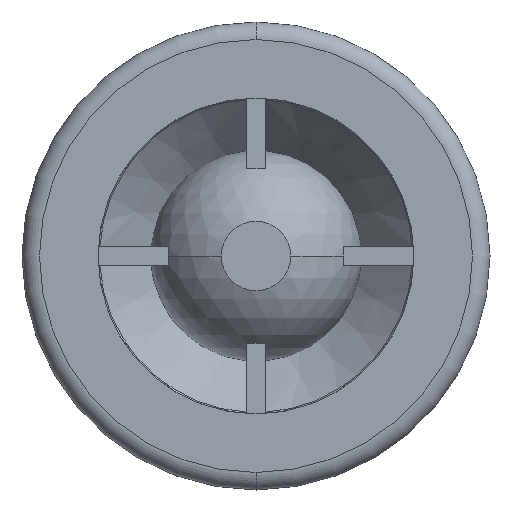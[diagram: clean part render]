
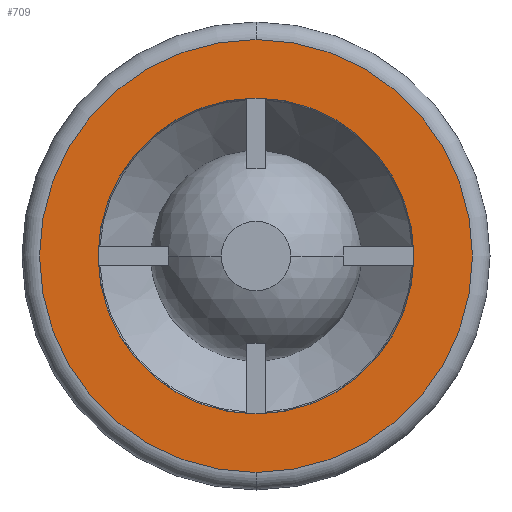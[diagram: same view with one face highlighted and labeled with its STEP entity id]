
A CAD part, front view. The second image highlights one B-rep face of the part: STEP entity #709.
In plain terms, the highlighted planar face has unit normal (0, -1, 0).
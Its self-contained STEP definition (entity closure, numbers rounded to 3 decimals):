
#282 = EDGE_CURVE ( 'NONE', #283, #284, #1837, .T. ) ;
#283 = VERTEX_POINT ( 'NONE', #1893 ) ;
#284 = VERTEX_POINT ( 'NONE', #1892 ) ;
#476 = VERTEX_POINT ( 'NONE', #2261 ) ;
#478 = EDGE_CURVE ( 'NONE', #476, #479, #2260, .T. ) ;
#479 = VERTEX_POINT ( 'NONE', #2255 ) ;
#514 = EDGE_CURVE ( 'NONE', #479, #476, #2303, .T. ) ;
#658 = EDGE_LOOP ( 'NONE', ( #710, #712 ) ) ;
#709 = ADVANCED_FACE ( 'NONE', ( #2682, #2681 ), #2680, .F. ) ;
#710 = ORIENTED_EDGE ( 'NONE', *, *, #711, .T. ) ;
#711 = EDGE_CURVE ( 'NONE', #284, #283, #2674, .T. ) ;
#712 = ORIENTED_EDGE ( 'NONE', *, *, #282, .T. ) ;
#713 = EDGE_LOOP ( 'NONE', ( #714, #715 ) ) ;
#714 = ORIENTED_EDGE ( 'NONE', *, *, #514, .F. ) ;
#715 = ORIENTED_EDGE ( 'NONE', *, *, #478, .F. ) ;
#1830 = DIRECTION ( 'NONE',  ( 0., 0., 1. ) ) ;
#1831 = DIRECTION ( 'NONE',  ( 0., -1., 0. ) ) ;
#1832 = CARTESIAN_POINT ( 'NONE',  ( 0., 0., 0. ) ) ;
#1833 = AXIS2_PLACEMENT_3D ( 'NONE', #1832, #1831, #1830 ) ;
#1837 = CIRCLE ( 'NONE', #1833, 18.5 ) ;
#1892 = CARTESIAN_POINT ( 'NONE',  ( 0., 0., 18.5 ) ) ;
#1893 = CARTESIAN_POINT ( 'NONE',  ( 0., 0., -18.5 ) ) ;
#2255 = CARTESIAN_POINT ( 'NONE',  ( 0., 0., -13.5 ) ) ;
#2256 = DIRECTION ( 'NONE',  ( 0., 0., -1. ) ) ;
#2257 = DIRECTION ( 'NONE',  ( 0., -1., 0. ) ) ;
#2258 = CARTESIAN_POINT ( 'NONE',  ( 0., 0., 0. ) ) ;
#2259 = AXIS2_PLACEMENT_3D ( 'NONE', #2258, #2257, #2256 ) ;
#2260 = CIRCLE ( 'NONE', #2259, 13.5 ) ;
#2261 = CARTESIAN_POINT ( 'NONE',  ( 0., 0., 13.5 ) ) ;
#2299 = DIRECTION ( 'NONE',  ( 0., 0., -1. ) ) ;
#2300 = DIRECTION ( 'NONE',  ( 0., -1., 0. ) ) ;
#2301 = CARTESIAN_POINT ( 'NONE',  ( 0., 0., 0. ) ) ;
#2302 = AXIS2_PLACEMENT_3D ( 'NONE', #2301, #2300, #2299 ) ;
#2303 = CIRCLE ( 'NONE', #2302, 13.5 ) ;
#2671 = DIRECTION ( 'NONE',  ( 0., 0., 1. ) ) ;
#2672 = DIRECTION ( 'NONE',  ( 0., -1., 0. ) ) ;
#2673 = AXIS2_PLACEMENT_3D ( 'NONE', #2678, #2672, #2671 ) ;
#2674 = CIRCLE ( 'NONE', #2673, 18.5 ) ;
#2675 = DIRECTION ( 'NONE',  ( 0., 0., 1. ) ) ;
#2676 = DIRECTION ( 'NONE',  ( 0., 1., 0. ) ) ;
#2677 = CARTESIAN_POINT ( 'NONE',  ( -13.5, 0., 0. ) ) ;
#2678 = CARTESIAN_POINT ( 'NONE',  ( 0., 0., 0. ) ) ;
#2679 = AXIS2_PLACEMENT_3D ( 'NONE', #2677, #2676, #2675 ) ;
#2680 = PLANE ( 'NONE',  #2679 ) ;
#2681 = FACE_BOUND ( 'NONE', #713, .T. ) ;
#2682 = FACE_OUTER_BOUND ( 'NONE', #658, .T. ) ;
